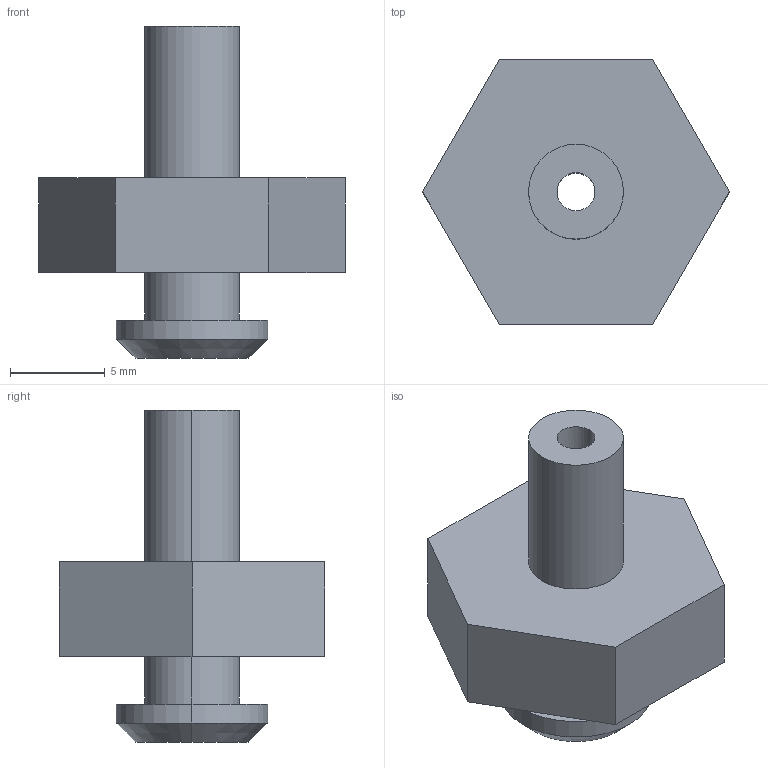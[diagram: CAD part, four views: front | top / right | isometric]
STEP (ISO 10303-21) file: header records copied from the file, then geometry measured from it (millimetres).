
FILE_DESCRIPTION (( 'STEP AP214' ), '1' );
FILE_NAME ('VM31-M5.STEP', '2023-03-07T08:15:28', ( 'Windows User' ), ( 'P R C' ), 'SwSTEP 2.0', 'SolidWorks 2019', '' );
FILE_SCHEMA (( 'AUTOMOTIVE_DESIGN' ));
Length unit declared in the file: millimetre
Products named in the file (1): VM31-M5
Bounding box: 16.17 x 14 x 17.5 mm (x, y, z)
Volume: 1088.9 mm3; surface area: 946.1 mm2
Topology: 1 solids, 1 shells, 21 faces, 46 edges, 30 vertices
Faces by surface type: plane 11, cylinder 8, cone 2
Entity records: 620 total; most frequent: DIRECTION 108, CARTESIAN_POINT 98, ORIENTED_EDGE 92, EDGE_CURVE 46, AXIS2_PLACEMENT_3D 40, VERTEX_POINT 30, LINE 28, VECTOR 28
